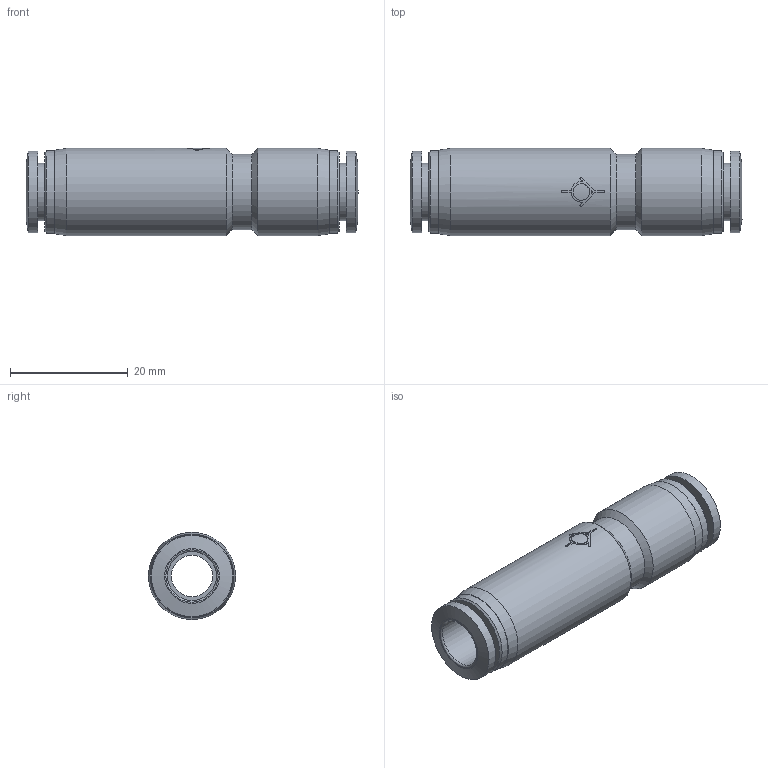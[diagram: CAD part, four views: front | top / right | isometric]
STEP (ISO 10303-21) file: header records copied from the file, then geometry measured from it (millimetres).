
FILE_DESCRIPTION((''),'2;1');
FILE_NAME('D:\INVENTOR\[New Inventor]\CDC Products 3D Ass''y\Check Valves\Metric\CVPU\CVPU08.stp','2009-02-16T09:13:16',('Microsoft'),(''),'Autodesk Inventor 2008','Autodesk Inventor 2008','');
FILE_SCHEMA(('AUTOMOTIVE_DESIGN { 1 0 10303 214 1 1 1 1 }'));
Length unit declared in the file: millimetre
Products named in the file (1): CVPU08
Bounding box: 56.4 x 14.8 x 14.8 mm (x, y, z)
Volume: 6308.6 mm3; surface area: 4452.3 mm2
Topology: 1 solids, 1 shells, 53 faces, 108 edges, 68 vertices
Faces by surface type: plane 24, cylinder 19, cone 8, torus 2
Full cylindrical faces by diameter (mm): 2.8 x1, 7.05 x1, 8.3 x2, 9.8 x2, 12.8 x1, 13.8 x2, 14 x2, 14.8 x2
Entity records: 1471 total; most frequent: CARTESIAN_POINT 381, DIRECTION 237, ORIENTED_EDGE 170, AXIS2_PLACEMENT_3D 106, EDGE_LOOP 89, EDGE_CURVE 85, VERTEX_POINT 68, FACE_OUTER_BOUND 53
